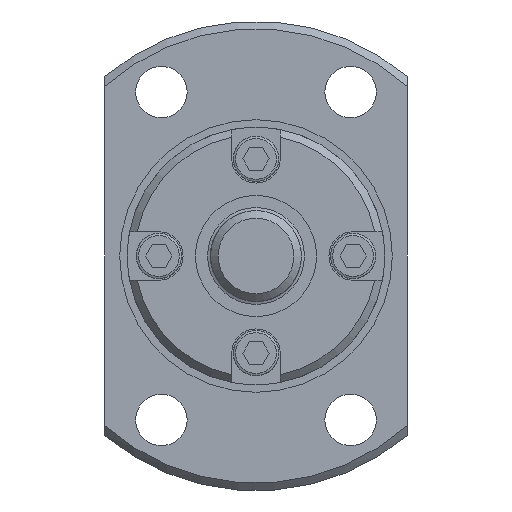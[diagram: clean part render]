
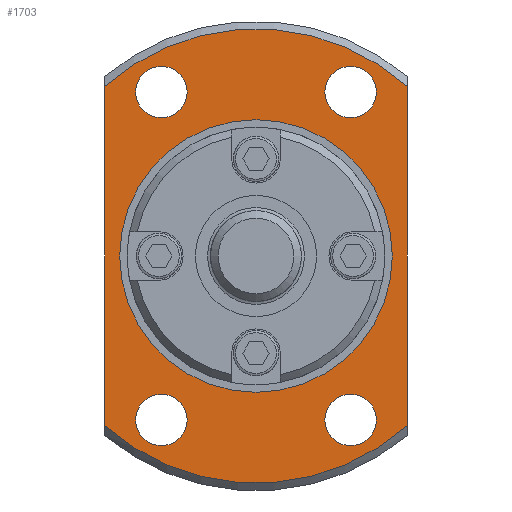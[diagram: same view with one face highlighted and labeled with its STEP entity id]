
A CAD part, left-side view. The second image highlights one B-rep face of the part: STEP entity #1703.
In plain terms, the highlighted planar face has unit normal (-1, 0, 0).
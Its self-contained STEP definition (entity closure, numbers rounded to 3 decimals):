
#149=CIRCLE('',#1898,15.);
#150=CIRCLE('',#1900,15.);
#151=CIRCLE('',#1902,8.1);
#152=CIRCLE('',#1903,1.7);
#153=CIRCLE('',#1904,1.7);
#154=CIRCLE('',#1905,1.7);
#155=CIRCLE('',#1906,1.7);
#355=ORIENTED_EDGE('',*,*,#751,.T.);
#356=ORIENTED_EDGE('',*,*,#752,.T.);
#357=ORIENTED_EDGE('',*,*,#753,.T.);
#358=ORIENTED_EDGE('',*,*,#754,.T.);
#359=ORIENTED_EDGE('',*,*,#755,.T.);
#360=ORIENTED_EDGE('',*,*,#746,.F.);
#361=ORIENTED_EDGE('',*,*,#756,.T.);
#362=ORIENTED_EDGE('',*,*,#748,.F.);
#363=ORIENTED_EDGE('',*,*,#757,.T.);
#746=EDGE_CURVE('',#949,#950,#149,.T.);
#748=EDGE_CURVE('',#951,#952,#150,.T.);
#751=EDGE_CURVE('',#953,#953,#151,.T.);
#752=EDGE_CURVE('',#954,#954,#152,.T.);
#753=EDGE_CURVE('',#955,#955,#153,.T.);
#754=EDGE_CURVE('',#956,#956,#154,.T.);
#755=EDGE_CURVE('',#957,#957,#155,.T.);
#756=EDGE_CURVE('',#949,#952,#1062,.T.);
#757=EDGE_CURVE('',#951,#950,#1063,.T.);
#949=VERTEX_POINT('',#2832);
#950=VERTEX_POINT('',#2834);
#951=VERTEX_POINT('',#2841);
#952=VERTEX_POINT('',#2842);
#953=VERTEX_POINT('',#2853);
#954=VERTEX_POINT('',#2855);
#955=VERTEX_POINT('',#2857);
#956=VERTEX_POINT('',#2859);
#957=VERTEX_POINT('',#2861);
#1062=LINE('',#2862,#1184);
#1063=LINE('',#2863,#1185);
#1184=VECTOR('',#2272,1000.);
#1185=VECTOR('',#2273,1000.);
#1322=EDGE_LOOP('',(#355));
#1323=EDGE_LOOP('',(#356));
#1324=EDGE_LOOP('',(#357));
#1325=EDGE_LOOP('',(#358));
#1326=EDGE_LOOP('',(#359));
#1327=EDGE_LOOP('',(#360,#361,#362,#363));
#1494=FACE_BOUND('',#1322,.T.);
#1495=FACE_BOUND('',#1323,.T.);
#1496=FACE_BOUND('',#1324,.T.);
#1497=FACE_BOUND('',#1325,.T.);
#1498=FACE_BOUND('',#1326,.T.);
#1499=FACE_BOUND('',#1327,.T.);
#1613=PLANE('',#1901);
#1703=ADVANCED_FACE('',(#1494,#1495,#1496,#1497,#1498,#1499),#1613,.T.);
#1898=AXIS2_PLACEMENT_3D('',#2833,#2254,#2255);
#1900=AXIS2_PLACEMENT_3D('',#2840,#2258,#2259);
#1901=AXIS2_PLACEMENT_3D('',#2851,#2260,#2261);
#1902=AXIS2_PLACEMENT_3D('',#2852,#2262,#2263);
#1903=AXIS2_PLACEMENT_3D('',#2854,#2264,#2265);
#1904=AXIS2_PLACEMENT_3D('',#2856,#2266,#2267);
#1905=AXIS2_PLACEMENT_3D('',#2858,#2268,#2269);
#1906=AXIS2_PLACEMENT_3D('',#2860,#2270,#2271);
#2254=DIRECTION('',(1.,0.,0.));
#2255=DIRECTION('',(0.,0.,-1.));
#2258=DIRECTION('',(1.,0.,0.));
#2259=DIRECTION('',(0.,0.,-1.));
#2260=DIRECTION('',(-1.,0.,0.));
#2261=DIRECTION('',(0.,0.,1.));
#2262=DIRECTION('',(1.,0.,0.));
#2263=DIRECTION('',(0.,0.,-1.));
#2264=DIRECTION('',(1.,0.,0.));
#2265=DIRECTION('',(0.,0.,-1.));
#2266=DIRECTION('',(1.,0.,0.));
#2267=DIRECTION('',(0.,0.,-1.));
#2268=DIRECTION('',(1.,0.,0.));
#2269=DIRECTION('',(0.,0.,-1.));
#2270=DIRECTION('',(1.,0.,0.));
#2271=DIRECTION('',(0.,0.,-1.));
#2272=DIRECTION('',(0.,0.,-1.));
#2273=DIRECTION('',(0.,0.,1.));
#2832=CARTESIAN_POINT('',(13.,10.,11.18));
#2833=CARTESIAN_POINT('',(13.,0.,0.));
#2834=CARTESIAN_POINT('',(13.,-10.,11.18));
#2840=CARTESIAN_POINT('',(13.,0.,0.));
#2841=CARTESIAN_POINT('',(13.,-10.,-11.18));
#2842=CARTESIAN_POINT('',(13.,10.,-11.18));
#2851=CARTESIAN_POINT('',(13.,15.,0.));
#2852=CARTESIAN_POINT('',(13.,0.,0.));
#2853=CARTESIAN_POINT('',(13.,0.,-8.1));
#2854=CARTESIAN_POINT('',(13.,6.25,10.825));
#2855=CARTESIAN_POINT('',(13.,6.25,9.125));
#2856=CARTESIAN_POINT('',(13.,-6.25,10.825));
#2857=CARTESIAN_POINT('',(13.,-6.25,9.125));
#2858=CARTESIAN_POINT('',(13.,-6.25,-10.825));
#2859=CARTESIAN_POINT('',(13.,-6.25,-12.525));
#2860=CARTESIAN_POINT('',(13.,6.25,-10.825));
#2861=CARTESIAN_POINT('',(13.,6.25,-12.525));
#2862=CARTESIAN_POINT('',(13.,10.,0.));
#2863=CARTESIAN_POINT('',(13.,-10.,0.));
